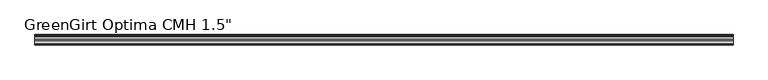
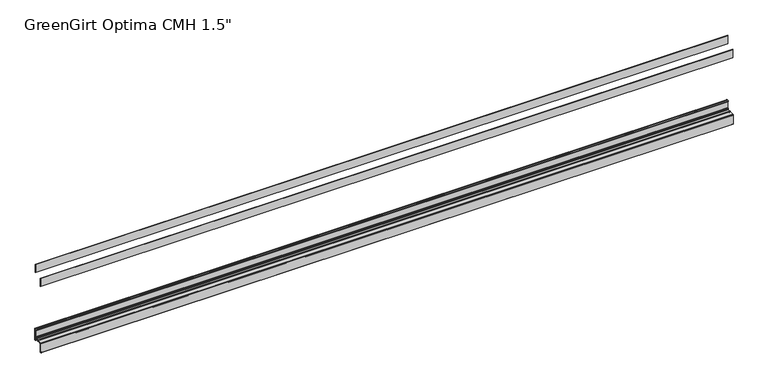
"""IFC4 building model written with IfcOpenShell, lengths in millimetres: fastener geometry."""

from ifc_helpers import new_model, si_unit, frame, origin, place, context, project, spatial, polyline, circle_curve, outline, extrude, source, transform, mapped, element, save
from ifc_brep_helpers import plane_surface, cylinder_surface, revolved_surface, advanced_brep


def fastener_f3fe0590(model_context):
    return source(origin(), model_context, "Body", "SolidModel", [
        extrude(outline(polyline([(2540.1186361, -2.794), (2540.1186361, -4.5212), (0.0, -4.5212), (0.0, -2.794), (2540.1186361, -2.794)])), frame((0.0, 0.0, 343.281), z_axis=(0.0, 0.0, 1.0), x_axis=(1.0, 0.0, 0.0)), (0.0, 0.0, 1.0), 30.988),
        extrude(outline(polyline([(2540.1186361, -34.4677766), (2540.1186361, -36.1949766), (0.0, -36.1949766), (0.0, -34.4677766), (2540.1186361, -34.4677766)])), frame((0.0, 0.0, 308.102), z_axis=(0.0, 0.0, 1.0), x_axis=(1.0, 0.0, 0.0)), (0.0, 0.0, 1.0), 30.988),
        advanced_brep(
        [(2540.1186361, -2.794, 120.269), (2540.1186361, -2.794, 88.9), (2540.1186361, -4.5212, 88.9), (2540.1186361, -4.5212, 93.091), (2540.1186361, -6.5532, 93.091), (2540.1186361, -6.5532, 88.9), (2540.1186361, -7.3152, 88.138), (2540.1186361, -17.7601563, 88.138), (2540.1186361, -17.7601563, 88.9864433), (2540.1186361, -20.4288947, 88.9864433), (2540.1186361, -20.4288947, 88.138), (2540.1186361, -37.3379766, 88.138), (2540.1186361, -38.0999766, 87.376), (2540.1186361, -38.1, 51.5196758), (2540.1186361, -37.3379766, 50.8), (2540.1186361, -34.4677766, 50.8), (2540.1186361, -32.4357766, 52.832), (2540.1186361, -32.4357766, 55.118), (2540.1186361, -34.4677766, 55.118), (2540.1186361, -34.4677766, 54.102), (2540.1186361, -36.1949766, 54.102), (2540.1186361, -36.1949766, 85.471), (2540.1186361, -34.4677766, 85.471), (2540.1186361, -34.4677766, 81.28), (2540.1186361, -32.4357766, 81.28), (2540.1186361, -32.4357766, 85.471), (2540.1186361, -31.6737766, 86.233), (2540.1186361, -20.4279799, 86.233), (2540.1186361, -20.4279799, 85.3840993), (2540.1186361, -17.7601563, 85.3840993), (2540.1186361, -17.7601563, 86.233), (2540.1186361, -2.667, 86.233), (2540.1186361, -1.905, 85.471), (2540.1186361, -1.905, 79.375), (2540.1186361, 0.0, 79.375), (2540.1186361, 0.0, 122.809), (2540.1186361, -0.762, 123.571), (2540.1186361, -4.5212, 123.571), (2540.1186361, -6.5532, 121.539), (2540.1186361, -6.5532, 119.253), (2540.1186361, -4.5212, 119.253), (2540.1186361, -4.5212, 120.269), (0.0, -2.794, 120.269), (0.0, -4.5212, 120.269), (0.0, -4.5212, 119.253), (0.0, -6.5532, 119.253), (0.0, -6.5532, 121.539), (0.0, -4.5212, 123.571), (0.0, -0.762, 123.571), (0.0, 0.0, 122.809), (0.0, 0.0, 79.375), (0.0, -1.905, 79.375), (0.0, -1.905, 85.471), (0.0, -2.667, 86.233), (0.0, -17.7601563, 86.233), (0.0, -17.7601563, 85.3840993), (0.0, -20.4279799, 85.3840993), (0.0, -20.4279799, 86.233), (0.0, -31.6737766, 86.233), (0.0, -32.4357766, 85.471), (0.0, -32.4357766, 81.28), (0.0, -34.4677766, 81.28), (0.0, -34.4677766, 85.471), (0.0, -36.1949766, 85.471), (0.0, -36.1949766, 54.102), (0.0, -34.4677766, 54.102), (0.0, -34.4677766, 55.118), (0.0, -32.4357766, 55.118), (0.0, -32.4357766, 52.832), (0.0, -34.4677766, 50.8), (0.0, -37.3379766, 50.8), (0.0, -38.0999766, 51.562), (0.0, -38.1, 87.4033226), (0.0, -37.3379766, 88.138), (0.0, -20.4288947, 88.138), (0.0, -20.4288947, 88.9864433), (0.0, -17.7601563, 88.9864433), (0.0, -17.7601563, 88.138), (0.0, -7.3152, 88.138), (0.0, -6.5532, 88.9), (0.0, -6.5532, 93.091), (0.0, -4.5212, 93.091), (0.0, -4.5212, 88.9), (0.0, -2.794, 88.9)],
        [
            (0, 1),
            (1, 2, circle_curve(frame((2540.1186361, -3.6576, 88.9), z_axis=(-1.0, 0.0, 0.0), x_axis=(0.0, 1.0, 0.0)), 0.8636)),
            (2, 3),
            (3, 4, circle_curve(frame((2540.1186361, -5.5372, 93.091), z_axis=(1.0, 0.0, 0.0), x_axis=(0.0, 1.0, 0.0)), 1.016)),
            (4, 5),
            (5, 6, circle_curve(frame((2540.1186361, -7.3152, 88.9), z_axis=(-1.0, 0.0, 0.0), x_axis=(0.0, 1.0, 0.0)), 0.762)),
            (6, 7),
            (7, 8),
            (8, 9, circle_curve(frame((2540.1186361, -19.0945255, 88.9864433), z_axis=(1.0, 0.0, 0.0), x_axis=(0.0, 1.0, 0.0)), 1.3343692)),
            (9, 10),
            (10, 11),
            (11, 12, circle_curve(frame((2540.1186361, -37.3379766, 87.376), z_axis=(1.0, 0.0, 0.0), x_axis=(0.0, 1.0, 0.0)), 0.762)),
            (12, 13),
            (13, 14, circle_curve(frame((2540.1186361, -37.3379766, 51.562), z_axis=(1.0, 0.0, 0.0), x_axis=(0.0, 1.0, 0.0)), 0.762)),
            (14, 15),
            (15, 16, circle_curve(frame((2540.1186361, -34.4677766, 52.832), z_axis=(1.0, 0.0, 0.0), x_axis=(0.0, 1.0, 0.0)), 2.032)),
            (16, 17),
            (17, 18, circle_curve(frame((2540.1186361, -33.4517766, 55.118), z_axis=(1.0, 0.0, 0.0), x_axis=(0.0, 1.0, 0.0)), 1.016)),
            (18, 19),
            (19, 20, circle_curve(frame((2540.1186361, -35.3313766, 54.102), z_axis=(-1.0, 0.0, 0.0), x_axis=(0.0, 1.0, 0.0)), 0.8636)),
            (20, 21),
            (21, 22, circle_curve(frame((2540.1186361, -35.3313766, 85.471), z_axis=(-1.0, 0.0, 0.0), x_axis=(0.0, 1.0, 0.0)), 0.8636)),
            (22, 23),
            (23, 24, circle_curve(frame((2540.1186361, -33.4517766, 81.28), z_axis=(1.0, 0.0, 0.0), x_axis=(0.0, 1.0, 0.0)), 1.016)),
            (24, 25),
            (25, 26, circle_curve(frame((2540.1186361, -31.6737766, 85.471), z_axis=(-1.0, 0.0, 0.0), x_axis=(0.0, 1.0, 0.0)), 0.762)),
            (26, 27),
            (27, 28),
            (28, 29, circle_curve(frame((2540.1186361, -19.0940681, 85.3840993), z_axis=(1.0, 0.0, 0.0), x_axis=(0.0, 1.0, 0.0)), 1.3339118)),
            (29, 30),
            (30, 31),
            (31, 32, circle_curve(frame((2540.1186361, -2.667, 85.471), z_axis=(-1.0, 0.0, 0.0), x_axis=(0.0, 1.0, 0.0)), 0.762)),
            (32, 33),
            (33, 34, circle_curve(frame((2540.1186361, -0.9525, 79.375), z_axis=(1.0, 0.0, 0.0), x_axis=(0.0, 1.0, 0.0)), 0.9525)),
            (34, 35),
            (35, 36, circle_curve(frame((2540.1186361, -0.762, 122.809), z_axis=(1.0, 0.0, 0.0), x_axis=(0.0, 1.0, 0.0)), 0.762)),
            (36, 37),
            (37, 38, circle_curve(frame((2540.1186361, -4.5212, 121.539), z_axis=(1.0, 0.0, 0.0), x_axis=(0.0, 1.0, 0.0)), 2.032)),
            (38, 39),
            (39, 40, circle_curve(frame((2540.1186361, -5.5372, 119.253), z_axis=(1.0, 0.0, 0.0), x_axis=(0.0, 1.0, 0.0)), 1.016)),
            (40, 41),
            (41, 0, circle_curve(frame((2540.1186361, -3.6576, 120.269), z_axis=(-1.0, 0.0, 0.0), x_axis=(0.0, 1.0, 0.0)), 0.8636)),
            (42, 43, circle_curve(frame((0.0, -3.6576, 120.269), z_axis=(1.0, 0.0, 0.0), x_axis=(0.0, 1.0, 0.0)), 0.8636)),
            (43, 44),
            (44, 45, circle_curve(frame((0.0, -5.5372, 119.253), z_axis=(-1.0, 0.0, 0.0), x_axis=(0.0, 1.0, 0.0)), 1.016)),
            (45, 46),
            (46, 47, circle_curve(frame((0.0, -4.5212, 121.539), z_axis=(-1.0, 0.0, 0.0), x_axis=(0.0, 1.0, 0.0)), 2.032)),
            (47, 48),
            (48, 49, circle_curve(frame((0.0, -0.762, 122.809), z_axis=(-1.0, 0.0, 0.0), x_axis=(0.0, 1.0, 0.0)), 0.762)),
            (49, 50),
            (50, 51, circle_curve(frame((0.0, -0.9525, 79.375), z_axis=(-1.0, 0.0, 0.0), x_axis=(0.0, 1.0, 0.0)), 0.9525)),
            (51, 52),
            (52, 53, circle_curve(frame((0.0, -2.667, 85.471), z_axis=(1.0, 0.0, 0.0), x_axis=(0.0, 1.0, 0.0)), 0.762)),
            (53, 54),
            (54, 55),
            (55, 56, circle_curve(frame((0.0, -19.0940681, 85.3840993), z_axis=(-1.0, 0.0, 0.0), x_axis=(0.0, 1.0, 0.0)), 1.3339118)),
            (56, 57),
            (57, 58),
            (58, 59, circle_curve(frame((0.0, -31.6737766, 85.471), z_axis=(1.0, 0.0, 0.0), x_axis=(0.0, 1.0, 0.0)), 0.762)),
            (59, 60),
            (60, 61, circle_curve(frame((0.0, -33.4517766, 81.28), z_axis=(-1.0, 0.0, 0.0), x_axis=(0.0, 1.0, 0.0)), 1.016)),
            (61, 62),
            (62, 63, circle_curve(frame((0.0, -35.3313766, 85.471), z_axis=(1.0, 0.0, 0.0), x_axis=(0.0, 1.0, 0.0)), 0.8636)),
            (63, 64),
            (64, 65, circle_curve(frame((0.0, -35.3313766, 54.102), z_axis=(1.0, 0.0, 0.0), x_axis=(0.0, 1.0, 0.0)), 0.8636)),
            (65, 66),
            (66, 67, circle_curve(frame((0.0, -33.4517766, 55.118), z_axis=(-1.0, 0.0, 0.0), x_axis=(0.0, 1.0, 0.0)), 1.016)),
            (67, 68),
            (68, 69, circle_curve(frame((0.0, -34.4677766, 52.832), z_axis=(-1.0, 0.0, 0.0), x_axis=(0.0, 1.0, 0.0)), 2.032)),
            (69, 70),
            (70, 71, circle_curve(frame((0.0, -37.3379766, 51.562), z_axis=(-1.0, 0.0, 0.0), x_axis=(0.0, 1.0, 0.0)), 0.762)),
            (71, 72),
            (72, 73, circle_curve(frame((0.0, -37.3379766, 87.376), z_axis=(-1.0, 0.0, 0.0), x_axis=(0.0, 1.0, 0.0)), 0.762)),
            (73, 74),
            (74, 75),
            (75, 76, circle_curve(frame((0.0, -19.0945255, 88.9864433), z_axis=(-1.0, 0.0, 0.0), x_axis=(0.0, 1.0, 0.0)), 1.3343692)),
            (76, 77),
            (77, 78),
            (78, 79, circle_curve(frame((0.0, -7.3152, 88.9), z_axis=(1.0, 0.0, 0.0), x_axis=(0.0, 1.0, 0.0)), 0.762)),
            (79, 80),
            (80, 81, circle_curve(frame((0.0, -5.5372, 93.091), z_axis=(-1.0, 0.0, 0.0), x_axis=(0.0, 1.0, 0.0)), 1.016)),
            (81, 82),
            (82, 83, circle_curve(frame((0.0, -3.6576, 88.9), z_axis=(1.0, 0.0, 0.0), x_axis=(0.0, 1.0, 0.0)), 0.8636)),
            (83, 42),
            (0, 42),
            (83, 1),
            (82, 2),
            (81, 3),
            (80, 4),
            (79, 5),
            (78, 6),
            (77, 7),
            (76, 8),
            (75, 9),
            (74, 10),
            (73, 11),
            (72, 12),
            (71, 13),
            (70, 14),
            (69, 15),
            (68, 16),
            (67, 17),
            (66, 18),
            (65, 19),
            (64, 20),
            (63, 21),
            (62, 22),
            (61, 23),
            (60, 24),
            (59, 25),
            (58, 26),
            (57, 27),
            (56, 28),
            (55, 29),
            (54, 30),
            (53, 31),
            (52, 32),
            (51, 33),
            (50, 34),
            (49, 35),
            (48, 36),
            (47, 37),
            (46, 38),
            (45, 39),
            (44, 40),
            (43, 41),
        ],
        [
            plane_surface(frame((2540.1186361, -2.794, 88.9), z_axis=(1.0, 0.0, 0.0), x_axis=(0.0, 0.0, -1.0))),
            plane_surface(frame((0.0, -2.794, 88.9), z_axis=(-1.0, 0.0, 0.0), x_axis=(0.0, 0.0, 1.0))),
            plane_surface(frame((2540.1186361, -2.794, 120.269), z_axis=(0.0, -1.0, 0.0), x_axis=(-1.0, 0.0, 0.0))),
            revolved_surface(polyline([(0.0, -2.794, 88.9), (2540.1186361, -2.794, 88.9)]), (0.0, -3.6576, 88.9), (-1.0, 0.0, 0.0)),
            plane_surface(frame((2540.1186361, -4.5212, 88.9), z_axis=(0.0, 1.0, 0.0), x_axis=(-1.0, 0.0, 0.0))),
            cylinder_surface(frame((0.0, -5.5372, 93.091), z_axis=(1.0, 0.0, 0.0), x_axis=(0.0, 1.0, 0.0)), 1.016),
            plane_surface(frame((2540.1186361, -6.5532, 93.091), z_axis=(0.0, -1.0, 0.0), x_axis=(-1.0, 0.0, 0.0))),
            revolved_surface(polyline([(0.0, -6.5532, 88.9), (2540.1186361, -6.5532, 88.9)]), (0.0, -7.3152, 88.9), (-1.0, 0.0, 0.0)),
            plane_surface(frame((2540.1186361, -7.3152, 88.138), z_axis=(0.0, 0.0, 1.0), x_axis=(-1.0, 0.0, 0.0))),
            plane_surface(frame((2540.1186361, -17.7601563, 88.138), z_axis=(0.0, 1.0, 0.0), x_axis=(-1.0, 0.0, 0.0))),
            cylinder_surface(frame((0.0, -19.0945255, 88.9864433), z_axis=(1.0, 0.0, 0.0), x_axis=(0.0, 1.0, 0.0)), 1.3343692),
            plane_surface(frame((2540.1186361, -20.4288947, 88.9864433), z_axis=(0.0, -1.0, 0.0), x_axis=(-1.0, 0.0, 0.0))),
            plane_surface(frame((2540.1186361, -20.4288947, 88.138), z_axis=(0.0, 0.0, 1.0), x_axis=(-1.0, 0.0, 0.0))),
            cylinder_surface(frame((0.0, -37.3379766, 87.376), z_axis=(1.0, 0.0, 0.0), x_axis=(0.0, 1.0, 0.0)), 0.762),
            plane_surface(frame((2540.1186361, -38.1, 87.4033226), z_axis=(0.0, -1.0, 0.0), x_axis=(-1.0, 0.0, 0.0))),
            cylinder_surface(frame((0.0, -37.3379766, 51.562), z_axis=(1.0, 0.0, 0.0), x_axis=(0.0, 1.0, 0.0)), 0.762),
            plane_surface(frame((2540.1186361, -37.3379766, 50.8), z_axis=(0.0, 1.174281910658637e-11, -1.0), x_axis=(-1.0, 0.0, 0.0))),
            cylinder_surface(frame((0.0, -34.4677766, 52.832), z_axis=(1.0, 0.0, 0.0), x_axis=(0.0, 1.0, 0.0)), 2.032),
            plane_surface(frame((2540.1186361, -32.4357766, 52.832), z_axis=(0.0, 1.0, 7.57912251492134e-12), x_axis=(-1.0, 0.0, 0.0))),
            cylinder_surface(frame((0.0, -33.4517766, 55.118), z_axis=(1.0, 0.0, 0.0), x_axis=(0.0, 1.0, 0.0)), 1.016),
            plane_surface(frame((2540.1186361, -34.4677766, 55.118), z_axis=(0.0, -1.0, -1.7053025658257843e-11), x_axis=(-1.0, 0.0, 0.0))),
            revolved_surface(polyline([(0.0, -34.4677766, 54.102), (2540.1186361, -34.4677766, 54.102)]), (0.0, -35.3313766, 54.102), (-1.0, 0.0, 0.0)),
            plane_surface(frame((2540.1186361, -36.1949766, 54.102), z_axis=(0.0, 1.0, 0.0), x_axis=(-1.0, 0.0, 0.0))),
            revolved_surface(polyline([(0.0, -34.4677766, 85.471), (2540.1186361, -34.4677766, 85.471)]), (0.0, -35.3313766, 85.471), (-1.0, 0.0, 0.0)),
            plane_surface(frame((2540.1186361, -34.4677766, 85.471), z_axis=(0.0, -1.0, 0.0), x_axis=(-1.0, 0.0, 0.0))),
            cylinder_surface(frame((0.0, -33.4517766, 81.28), z_axis=(1.0, 0.0, 0.0), x_axis=(0.0, 1.0, 0.0)), 1.016),
            plane_surface(frame((2540.1186361, -32.4357766, 81.28), z_axis=(0.0, 1.0, 0.0), x_axis=(-1.0, 0.0, 0.0))),
            revolved_surface(polyline([(0.0, -30.9117766, 85.471), (2540.1186361, -30.9117766, 85.471)]), (0.0, -31.6737766, 85.471), (-1.0, 0.0, 0.0)),
            plane_surface(frame((2540.1186361, -31.6737766, 86.233), z_axis=(0.0, 0.0, -1.0), x_axis=(-1.0, 0.0, 0.0))),
            plane_surface(frame((2540.1186361, -20.4279799, 86.233), z_axis=(0.0, -1.0, 0.0), x_axis=(-1.0, 0.0, 0.0))),
            cylinder_surface(frame((0.0, -19.0940681, 85.3840993), z_axis=(1.0, 0.0, 0.0), x_axis=(0.0, 1.0, 0.0)), 1.3339118),
            plane_surface(frame((2540.1186361, -17.7601563, 85.3840993), z_axis=(0.0, 1.0, 0.0), x_axis=(-1.0, 0.0, 0.0))),
            plane_surface(frame((2540.1186361, -17.7601563, 86.233), z_axis=(0.0, 0.0, -1.0), x_axis=(-1.0, 0.0, 0.0))),
            revolved_surface(polyline([(0.0, -1.9049999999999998, 85.471), (2540.1186361, -1.9049999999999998, 85.471)]), (0.0, -2.667, 85.471), (-1.0, 0.0, 0.0)),
            plane_surface(frame((2540.1186361, -1.905, 85.471), z_axis=(0.0, -1.0, 0.0), x_axis=(-1.0, 0.0, 0.0))),
            cylinder_surface(frame((0.0, -0.9525, 79.375), z_axis=(1.0, 0.0, 0.0), x_axis=(0.0, 1.0, 0.0)), 0.9525),
            plane_surface(frame((2540.1186361, 0.0, 79.375), z_axis=(0.0, 1.0, 0.0), x_axis=(-1.0, 0.0, 0.0))),
            cylinder_surface(frame((0.0, -0.762, 122.809), z_axis=(1.0, 0.0, 0.0), x_axis=(0.0, 1.0, 0.0)), 0.762),
            plane_surface(frame((2540.1186361, -0.762, 123.571), z_axis=(0.0, 2.6818637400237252e-11, 1.0), x_axis=(-1.0, 0.0, 0.0))),
            cylinder_surface(frame((0.0, -4.5212, 121.539), z_axis=(1.0, 0.0, 0.0), x_axis=(0.0, 1.0, 0.0)), 2.032),
            plane_surface(frame((2540.1186361, -6.5532, 121.539), z_axis=(0.0, -1.0, 0.0), x_axis=(-1.0, 0.0, 0.0))),
            cylinder_surface(frame((0.0, -5.5372, 119.253), z_axis=(1.0, 0.0, 0.0), x_axis=(0.0, 1.0, 0.0)), 1.016),
            plane_surface(frame((2540.1186361, -4.5212, 119.253), z_axis=(0.0, 1.0, 0.0), x_axis=(-1.0, 0.0, 0.0))),
            revolved_surface(polyline([(0.0, -2.794, 120.269), (2540.1186361, -2.794, 120.269)]), (0.0, -3.6576, 120.269), (-1.0, 0.0, 0.0)),
        ],
        [
            (0, [[1, 2, 3, 4, 5, 6, 7, 8, 9, 10, 11, 12, 13, 14, 15, 16, 17, 18, 19, 20, 21, 22, 23, 24, 25, 26, 27, 28, 29, 30, 31, 32, 33, 34, 35, 36, 37, 38, 39, 40, 41, 42]]),
            (1, [[43, 44, 45, 46, 47, 48, 49, 50, 51, 52, 53, 54, 55, 56, 57, 58, 59, 60, 61, 62, 63, 64, 65, 66, 67, 68, 69, 70, 71, 72, 73, 74, 75, 76, 77, 78, 79, 80, 81, 82, 83, 84]]),
            (2, [[-1, 85, -84, 86]]),
            (3, [[-2, -86, -83, 87]]),
            (4, [[-3, -87, -82, 88]]),
            (5, [[-4, -88, -81, 89]]),
            (6, [[-5, -89, -80, 90]]),
            (7, [[-6, -90, -79, 91]]),
            (8, [[-7, -91, -78, 92]]),
            (9, [[-8, -92, -77, 93]]),
            (10, [[-9, -93, -76, 94]]),
            (11, [[-10, -94, -75, 95]]),
            (12, [[-11, -95, -74, 96]]),
            (13, [[-12, -96, -73, 97]]),
            (14, [[-13, -97, -72, 98]]),
            (15, [[-14, -98, -71, 99]]),
            (16, [[-15, -99, -70, 100]]),
            (17, [[-16, -100, -69, 101]]),
            (18, [[-17, -101, -68, 102]]),
            (19, [[-18, -102, -67, 103]]),
            (20, [[-19, -103, -66, 104]]),
            (21, [[-20, -104, -65, 105]]),
            (22, [[-21, -105, -64, 106]]),
            (23, [[-22, -106, -63, 107]]),
            (24, [[-23, -107, -62, 108]]),
            (25, [[-24, -108, -61, 109]]),
            (26, [[-25, -109, -60, 110]]),
            (27, [[-26, -110, -59, 111]]),
            (28, [[-27, -111, -58, 112]]),
            (29, [[-28, -112, -57, 113]]),
            (30, [[-29, -113, -56, 114]]),
            (31, [[-30, -114, -55, 115]]),
            (32, [[-31, -115, -54, 116]]),
            (33, [[-32, -116, -53, 117]]),
            (34, [[-33, -117, -52, 118]]),
            (35, [[-34, -118, -51, 119]]),
            (36, [[-35, -119, -50, 120]]),
            (37, [[-36, -120, -49, 121]]),
            (38, [[-37, -121, -48, 122]]),
            (39, [[-38, -122, -47, 123]]),
            (40, [[-39, -123, -46, 124]]),
            (41, [[-40, -124, -45, 125]]),
            (42, [[-41, -125, -44, 126]]),
            (43, [[-42, -126, -43, -85]]),
        ],
    ),
        extrude(outline(polyline([(2540.1186361, -2.794), (2540.1186361, -4.5212), (0.0, -4.5212), (0.0, -2.794), (2540.1186361, -2.794)])), frame((0.0, 0.0, 89.281), z_axis=(0.0, 0.0, 1.0), x_axis=(1.0, 0.0, 0.0)), (0.0, 0.0, 1.0), 30.988),
        extrude(outline(polyline([(2540.1186361, -34.4677766), (2540.1186361, -36.1949766), (0.0, -36.1949766), (0.0, -34.4677766), (2540.1186361, -34.4677766)])), frame((0.0, 0.0, 54.102), z_axis=(0.0, 0.0, 1.0), x_axis=(1.0, 0.0, 0.0)), (0.0, 0.0, 1.0), 30.988),
    ])


if __name__ == "__main__":
    model = new_model("IFC4")
    model_context = context("Model", 3, world=origin())
    ifc_project = project(units=[si_unit("LENGTHUNIT", "METRE", prefix="MILLI")], contexts=[model_context])
    site = spatial("IfcSite", under=ifc_project)
    building = spatial("IfcBuilding", under=site)
    placement = place(None, origin())
    fastener_shape = fastener_f3fe0590(model_context)
    element("IfcFastener", 1, ObjectType="Structural-Supporting-Components_Advanced-Architectural-Products_GreenGirt-Optima-CMH-System : GreenGirt Optima CMH 1.5\"", at=placement, inside=building, context=model_context, shape_type="MappedRepresentation", body=[
        mapped(fastener_shape, transform((0.0, 0.0, 0.0), x_axis=(1.0, 0.0, 0.0), y_axis=(0.0, 1.0, 0.0), z_axis=(0.0, 0.0, 1.0))),
    ])
    save(model, "model.ifc")
